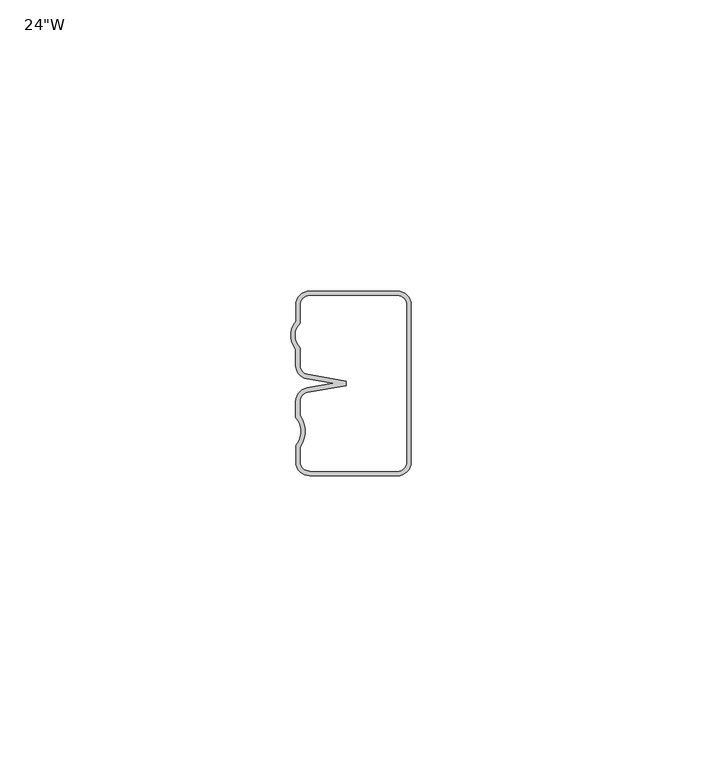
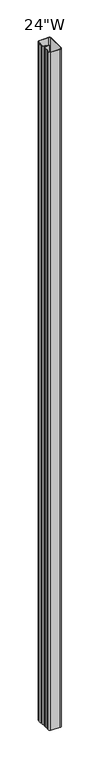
"""IFC4 building model written with IfcOpenShell, lengths in millimetres: furniture geometry."""

from ifc_helpers import new_model, si_unit, frame, origin, place, context, project, spatial, polyline, circle_curve, source, transform, mapped, element, save
from ifc_brep_helpers import plane_surface, cylinder_surface, revolved_surface, advanced_brep


def furniture_f681380f(model_context):
    return source(origin(), model_context, "Body", "AdvancedBrep", [
        advanced_brep(
        [(17.4307493, -12.7000004, 1249.3625), (2.38125, -12.7000004, 1249.3625), (0.0, -15.0812504, 1249.3625), (0.0, -17.9047617, 1249.3625), (-0.0245942, -22.7135456, 1249.3625), (-0.0245942, -25.439594, 1249.3625), (1.959, -27.7967107, 1249.3625), (6.3910055, -28.566162, 1249.3625), (1.9584816, -29.3357032, 1249.3625), (-0.0245942, -31.6927299, 1249.3625), (-0.0245942, -34.360617, 1249.3625), (0.0, -39.2275622, 1249.3625), (0.0, -42.0510735, 1249.3625), (2.38125, -44.4323235, 1249.3625), (17.4130743, -44.4499985, 1249.3625), (19.8119993, -42.0510735, 1249.3625), (19.8119993, -15.0812504, 1249.3625), (0.79375, -39.5025989, 1249.3625), (0.7691558, -34.0813213, 1249.3625), (0.7691558, -31.6927299, 1249.3625), (2.0942554, -30.1177547, 1249.3625), (8.7111835, -28.9689737, 1249.3625), (8.7111835, -28.1633502, 1249.3625), (2.0942554, -27.0145692, 1249.3625), (0.7691558, -25.439594, 1249.3625), (0.7691558, -22.4079263, 1249.3625), (0.79375, -18.2153751, 1249.3625), (0.79375, -15.0812504, 1249.3625), (2.38125, -13.4937504, 1249.3625), (17.4307493, -13.4937504, 1249.3625), (19.0182493, -15.0812504, 1249.3625), (19.0182493, -42.0510735, 1249.3625), (17.4130743, -43.6562485, 1249.3625), (2.4384001, -43.6562485, 1249.3625), (0.79375, -42.0510735, 1249.3625), (17.4307493, -12.7000004, 130.175), (19.8119993, -15.0812504, 130.175), (19.8119993, -42.0510735, 130.175), (17.4130743, -44.4499985, 130.175), (2.4384001, -44.4499985, 130.175), (0.0, -42.0510735, 130.175), (0.0, -39.2275622, 130.175), (-0.0245942, -34.360617, 130.175), (-0.0245942, -31.6927299, 130.175), (1.9584816, -29.3357032, 130.175), (6.3910055, -28.566162, 130.175), (1.959, -27.7967107, 130.175), (-0.0245942, -25.439594, 130.175), (-0.0245942, -22.7135456, 130.175), (0.0, -17.9047617, 130.175), (0.0, -15.0812504, 130.175), (2.38125, -12.7000004, 130.175), (0.79375, -39.5025989, 130.175), (0.79375, -42.0510735, 130.175), (2.38125, -43.6385735, 130.175), (17.4130743, -43.6562485, 130.175), (19.0182493, -42.0510735, 130.175), (19.0182493, -15.0812504, 130.175), (17.4307493, -13.4937504, 130.175), (2.38125, -13.4937504, 130.175), (0.79375, -15.0812504, 130.175), (0.79375, -18.2153751, 130.175), (0.7691558, -22.4079263, 130.175), (0.7691558, -25.439594, 130.175), (2.0942554, -27.0145692, 130.175), (8.7111835, -28.1633502, 130.175), (8.7111835, -28.9689737, 130.175), (2.0942554, -30.1177547, 130.175), (0.7691558, -31.6927299, 130.175), (0.7691558, -34.0813213, 130.175)],
        [
            (0, 1),
            (1, 2, circle_curve(frame((2.38125, -15.0812504, 1249.3625), z_axis=(0.0, 0.0, 1.0), x_axis=(1.0, 0.0, 0.0)), 2.38125)),
            (2, 3),
            (3, 4, circle_curve(frame((2.8600112, -20.3238439, 1249.3625), z_axis=(0.0, 0.0, 1.0), x_axis=(1.0, 0.0, 0.0)), 3.7458807)),
            (4, 5),
            (5, 6, circle_curve(frame((2.3676907, -25.439594, 1249.3625), z_axis=(0.0, 0.0, 1.0), x_axis=(1.0, 0.0, 0.0)), 2.392285)),
            (6, 7),
            (7, 8),
            (8, 9, circle_curve(frame((2.3676907, -31.6927299, 1249.3625), z_axis=(0.0, 0.0, 1.0), x_axis=(1.0, 0.0, 0.0)), 2.392285)),
            (9, 10),
            (10, 11, circle_curve(frame((-2.8600112, -36.80848, 1249.3625), z_axis=(0.0, 0.0, -1.0), x_axis=(1.0, 0.0, 0.0)), 3.7458807)),
            (11, 12),
            (12, 13, circle_curve(frame((2.38125, -42.0510735, 1249.3625), z_axis=(0.0, 0.0, 1.0), x_axis=(1.0, 0.0, 0.0)), 2.38125)),
            (13, 14),
            (14, 15, circle_curve(frame((17.4130743, -42.0510735, 1249.3625), z_axis=(0.0, 0.0, 1.0), x_axis=(1.0, 0.0, 0.0)), 2.398925)),
            (15, 16),
            (16, 0, circle_curve(frame((17.4307493, -15.0812504, 1249.3625), z_axis=(0.0, 0.0, 1.0), x_axis=(1.0, 0.0, 0.0)), 2.38125)),
            (17, 18, circle_curve(frame((-2.8600112, -36.80848, 1249.3625), z_axis=(0.0, 0.0, 1.0), x_axis=(1.0, 0.0, 0.0)), 4.5396307)),
            (18, 19),
            (19, 20, circle_curve(frame((2.3676907, -31.6927299, 1249.3625), z_axis=(0.0, 0.0, -1.0), x_axis=(1.0, 0.0, 0.0)), 1.598535)),
            (20, 21),
            (21, 22),
            (22, 23),
            (23, 24, circle_curve(frame((2.3676907, -25.439594, 1249.3625), z_axis=(0.0, 0.0, -1.0), x_axis=(1.0, 0.0, 0.0)), 1.598535)),
            (24, 25),
            (25, 26, circle_curve(frame((2.8600112, -20.3238439, 1249.3625), z_axis=(0.0, 0.0, -1.0), x_axis=(1.0, 0.0, 0.0)), 2.9521307)),
            (26, 27),
            (27, 28, circle_curve(frame((2.38125, -15.0812504, 1249.3625), z_axis=(0.0, 0.0, -1.0), x_axis=(1.0, 0.0, 0.0)), 1.5875)),
            (28, 29),
            (29, 30, circle_curve(frame((17.4307493, -15.0812504, 1249.3625), z_axis=(0.0, 0.0, -1.0), x_axis=(1.0, 0.0, 0.0)), 1.5875)),
            (30, 31),
            (31, 32, circle_curve(frame((17.4130743, -42.0510735, 1249.3625), z_axis=(0.0, 0.0, -1.0), x_axis=(1.0, 0.0, 0.0)), 1.605175)),
            (32, 33),
            (33, 34, circle_curve(frame((2.38125, -42.0510735, 1249.3625), z_axis=(0.0, 0.0, -1.0), x_axis=(1.0, 0.0, 0.0)), 1.5875)),
            (34, 17),
            (35, 36, circle_curve(frame((17.4307493, -15.0812504, 130.175), z_axis=(0.0, 0.0, -1.0), x_axis=(1.0, 0.0, 0.0)), 2.38125)),
            (36, 37),
            (37, 38, circle_curve(frame((17.4130743, -42.0510735, 130.175), z_axis=(0.0, 0.0, -1.0), x_axis=(1.0, 0.0, 0.0)), 2.398925)),
            (38, 39),
            (39, 40, circle_curve(frame((2.38125, -42.0510735, 130.175), z_axis=(0.0, 0.0, -1.0), x_axis=(1.0, 0.0, 0.0)), 2.38125)),
            (40, 41),
            (41, 42, circle_curve(frame((-2.8600112, -36.80848, 130.175), z_axis=(0.0, 0.0, 1.0), x_axis=(1.0, 0.0, 0.0)), 3.7458807)),
            (42, 43),
            (43, 44, circle_curve(frame((2.3676907, -31.6927299, 130.175), z_axis=(0.0, 0.0, -1.0), x_axis=(1.0, 0.0, 0.0)), 2.392285)),
            (44, 45),
            (45, 46),
            (46, 47, circle_curve(frame((2.3676907, -25.439594, 130.175), z_axis=(0.0, 0.0, -1.0), x_axis=(1.0, 0.0, 0.0)), 2.392285)),
            (47, 48),
            (48, 49, circle_curve(frame((2.8600112, -20.3238439, 130.175), z_axis=(0.0, 0.0, -1.0), x_axis=(1.0, 0.0, 0.0)), 3.7458807)),
            (49, 50),
            (50, 51, circle_curve(frame((2.38125, -15.0812504, 130.175), z_axis=(0.0, 0.0, -1.0), x_axis=(1.0, 0.0, 0.0)), 2.38125)),
            (51, 35),
            (52, 53),
            (53, 54, circle_curve(frame((2.38125, -42.0510735, 130.175), z_axis=(0.0, 0.0, 1.0), x_axis=(1.0, 0.0, 0.0)), 1.5875)),
            (54, 55),
            (55, 56, circle_curve(frame((17.4130743, -42.0510735, 130.175), z_axis=(0.0, 0.0, 1.0), x_axis=(1.0, 0.0, 0.0)), 1.605175)),
            (56, 57),
            (57, 58, circle_curve(frame((17.4307493, -15.0812504, 130.175), z_axis=(0.0, 0.0, 1.0), x_axis=(1.0, 0.0, 0.0)), 1.5875)),
            (58, 59),
            (59, 60, circle_curve(frame((2.38125, -15.0812504, 130.175), z_axis=(0.0, 0.0, 1.0), x_axis=(1.0, 0.0, 0.0)), 1.5875)),
            (60, 61),
            (61, 62, circle_curve(frame((2.8600112, -20.3238439, 130.175), z_axis=(0.0, 0.0, 1.0), x_axis=(1.0, 0.0, 0.0)), 2.9521307)),
            (62, 63),
            (63, 64, circle_curve(frame((2.3676907, -25.439594, 130.175), z_axis=(0.0, 0.0, 1.0), x_axis=(1.0, 0.0, 0.0)), 1.598535)),
            (64, 65),
            (65, 66),
            (66, 67),
            (67, 68, circle_curve(frame((2.3676907, -31.6927299, 130.175), z_axis=(0.0, 0.0, 1.0), x_axis=(1.0, 0.0, 0.0)), 1.598535)),
            (68, 69),
            (69, 52, circle_curve(frame((-2.8600112, -36.80848, 130.175), z_axis=(0.0, 0.0, -1.0), x_axis=(1.0, 0.0, 0.0)), 4.5396307)),
            (16, 36),
            (35, 0),
            (15, 37),
            (14, 38),
            (13, 39),
            (12, 40),
            (11, 41),
            (10, 42),
            (9, 43),
            (8, 44),
            (7, 45),
            (6, 46),
            (5, 47),
            (4, 48),
            (3, 49),
            (2, 50),
            (1, 51),
            (34, 53),
            (52, 17),
            (33, 54),
            (32, 55),
            (31, 56),
            (30, 57),
            (29, 58),
            (28, 59),
            (27, 60),
            (26, 61),
            (25, 62),
            (24, 63),
            (23, 64),
            (22, 65),
            (20, 67),
            (66, 21),
            (19, 68),
            (18, 69),
        ],
        [
            plane_surface(frame((19.8119993, -15.0812504, 1249.3625), z_axis=(0.0, 0.0, 1.0), x_axis=(0.0, -1.0, 0.0))),
            plane_surface(frame((19.8119993, -15.0812504, 130.175), z_axis=(0.0, 0.0, -1.0), x_axis=(0.0, 1.0, 0.0))),
            cylinder_surface(frame((17.4307493, -15.0812504, 130.175), z_axis=(0.0, 0.0, 1.0), x_axis=(1.0, 0.0, 0.0)), 2.38125),
            plane_surface(frame((19.8119993, -15.0812504, 1249.3625), z_axis=(1.0, 0.0, 0.0), x_axis=(0.0, 0.0, -1.0))),
            cylinder_surface(frame((17.4130743, -42.0510735, 130.175), z_axis=(0.0, 0.0, 1.0), x_axis=(1.0, 0.0, 0.0)), 2.398925),
            plane_surface(frame((17.4130743, -44.4499985, 1249.3625), z_axis=(0.0, -1.0, 0.0), x_axis=(0.0, 0.0, -1.0))),
            cylinder_surface(frame((2.38125, -42.0510735, 130.175), z_axis=(0.0, 0.0, 1.0), x_axis=(1.0, 0.0, 0.0)), 2.38125),
            plane_surface(frame((0.0, -42.0510735, 1249.3625), z_axis=(-1.0, 0.0, 0.0), x_axis=(0.0, 0.0, -1.0))),
            revolved_surface(polyline([(0.8858694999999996, -36.80848, 130.175), (0.8858694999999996, -36.80848, 1249.3625)]), (-2.8600112, -36.80848, 130.175), (0.0, 0.0, -1.0)),
            plane_surface(frame((-0.0245942, -34.360617, 1249.3625), z_axis=(-1.0, 0.0, 0.0), x_axis=(0.0, 0.0, -1.0))),
            cylinder_surface(frame((2.3676907, -31.6927299, 130.175), z_axis=(0.0, 0.0, 1.0), x_axis=(1.0, 0.0, 0.0)), 2.392285),
            plane_surface(frame((1.9584816, -29.3357032, 1249.3625), z_axis=(-0.1710536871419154, 0.9852617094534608, 0.0), x_axis=(0.0, 0.0, -1.0))),
            plane_surface(frame((6.3910055, -28.566162, 1249.3625), z_axis=(-0.1710536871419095, -0.9852617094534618, 0.0), x_axis=(0.0, 0.0, -1.0))),
            cylinder_surface(frame((2.3676907, -25.439594, 130.175), z_axis=(0.0, 0.0, 1.0), x_axis=(1.0, 0.0, 0.0)), 2.392285),
            plane_surface(frame((-0.0245942, -25.439594, 1249.3625), z_axis=(-1.0, 0.0, 0.0), x_axis=(0.0, 0.0, -1.0))),
            cylinder_surface(frame((2.8600112, -20.3238439, 130.175), z_axis=(0.0, 0.0, 1.0), x_axis=(1.0, 0.0, 0.0)), 3.7458807),
            plane_surface(frame((0.0, -17.9047617, 1249.3625), z_axis=(-1.0, 0.0, 0.0), x_axis=(0.0, 0.0, -1.0))),
            cylinder_surface(frame((2.38125, -15.0812504, 130.175), z_axis=(0.0, 0.0, 1.0), x_axis=(1.0, 0.0, 0.0)), 2.38125),
            plane_surface(frame((2.38125, -12.7000004, 1249.3625), z_axis=(0.0, 1.0, 0.0), x_axis=(0.0, 0.0, -1.0))),
            plane_surface(frame((0.79375, -39.5025989, 1249.3625), z_axis=(1.0, 0.0, 0.0), x_axis=(0.0, 0.0, -1.0))),
            revolved_surface(polyline([(3.96875, -42.0510735, 130.175), (3.96875, -42.0510735, 1249.3625)]), (2.38125, -42.0510735, 0.0), (0.0, 0.0, -1.0)),
            plane_surface(frame((2.4384001, -43.6562485, 1249.3625), z_axis=(0.0, 1.0, 0.0), x_axis=(0.0, 0.0, -1.0))),
            revolved_surface(polyline([(19.0182493, -42.0510735, 130.175), (19.0182493, -42.0510735, 1249.3625)]), (17.4130743, -42.0510735, 0.0), (0.0, 0.0, -1.0)),
            plane_surface(frame((19.0182493, -42.0510735, 1249.3625), z_axis=(-1.0, 0.0, 0.0), x_axis=(0.0, 0.0, -1.0))),
            revolved_surface(polyline([(19.018249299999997, -15.0812504, 130.175), (19.018249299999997, -15.0812504, 1249.3625)]), (17.4307493, -15.0812504, 0.0), (0.0, 0.0, -1.0)),
            plane_surface(frame((17.4307493, -13.4937504, 1249.3625), z_axis=(0.0, -1.0, 0.0), x_axis=(0.0, 0.0, -1.0))),
            revolved_surface(polyline([(3.96875, -15.0812504, 130.175), (3.96875, -15.0812504, 1249.3625)]), (2.38125, -15.0812504, 0.0), (0.0, 0.0, -1.0)),
            plane_surface(frame((0.79375, -15.0812504, 1249.3625), z_axis=(1.0, 0.0, 0.0), x_axis=(0.0, 0.0, -1.0))),
            revolved_surface(polyline([(5.8121419, -20.3238439, 130.175), (5.8121419, -20.3238439, 1249.3625)]), (2.8600112, -20.3238439, 0.0), (0.0, 0.0, -1.0)),
            plane_surface(frame((0.7691558, -22.4079263, 1249.3625), z_axis=(1.0, 0.0, 0.0), x_axis=(0.0, 0.0, -1.0))),
            revolved_surface(polyline([(3.9662257, -25.439594, 130.175), (3.9662257, -25.439594, 1249.3625)]), (2.3676907, -25.439594, 0.0), (0.0, 0.0, -1.0)),
            plane_surface(frame((2.0942554, -27.0145692, 1249.3625), z_axis=(0.17105368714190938, 0.9852617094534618, 0.0), x_axis=(0.0, 0.0, -1.0))),
            plane_surface(frame((8.7111835, -28.9689737, 1249.3625), z_axis=(0.17105368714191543, -0.9852617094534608, 0.0), x_axis=(0.0, 0.0, -1.0))),
            revolved_surface(polyline([(3.9662257, -31.6927299, 130.175), (3.9662257, -31.6927299, 1249.3625)]), (2.3676907, -31.6927299, 0.0), (0.0, 0.0, -1.0)),
            plane_surface(frame((0.7691558, -31.6927299, 1249.3625), z_axis=(1.0, 0.0, 0.0), x_axis=(0.0, 0.0, -1.0))),
            cylinder_surface(frame((-2.8600112, -36.80848, 0.0), z_axis=(0.0, 0.0, 1.0), x_axis=(1.0, 0.0, 0.0)), 4.5396307),
            plane_surface(frame((8.7111835, -28.1633502, 1249.3625), z_axis=(1.0, 0.0, 0.0), x_axis=(0.0, 0.0, -1.0))),
        ],
        [
            (0, [[1, 2, 3, 4, 5, 6, 7, 8, 9, 10, 11, 12, 13, 14, 15, 16, 17], [18, 19, 20, 21, 22, 23, 24, 25, 26, 27, 28, 29, 30, 31, 32, 33, 34, 35]]),
            (1, [[36, 37, 38, 39, 40, 41, 42, 43, 44, 45, 46, 47, 48, 49, 50, 51, 52], [53, 54, 55, 56, 57, 58, 59, 60, 61, 62, 63, 64, 65, 66, 67, 68, 69, 70]]),
            (2, [[71, -36, 72, -17]]),
            (3, [[73, -37, -71, -16]]),
            (4, [[74, -38, -73, -15]]),
            (5, [[75, -39, -74, -14]]),
            (6, [[76, -40, -75, -13]]),
            (7, [[77, -41, -76, -12]]),
            (8, [[78, -42, -77, -11]]),
            (9, [[79, -43, -78, -10]]),
            (10, [[80, -44, -79, -9]]),
            (11, [[81, -45, -80, -8]]),
            (12, [[82, -46, -81, -7]]),
            (13, [[83, -47, -82, -6]]),
            (14, [[84, -48, -83, -5]]),
            (15, [[85, -49, -84, -4]]),
            (16, [[86, -50, -85, -3]]),
            (17, [[87, -51, -86, -2]]),
            (18, [[-72, -52, -87, -1]]),
            (19, [[88, -53, 89, -35]]),
            (20, [[90, -54, -88, -34]]),
            (21, [[91, -55, -90, -33]]),
            (22, [[92, -56, -91, -32]]),
            (23, [[93, -57, -92, -31]]),
            (24, [[94, -58, -93, -30]]),
            (25, [[95, -59, -94, -29]]),
            (26, [[96, -60, -95, -28]]),
            (27, [[97, -61, -96, -27]]),
            (28, [[98, -62, -97, -26]]),
            (29, [[99, -63, -98, -25]]),
            (30, [[100, -64, -99, -24]]),
            (31, [[101, -65, -100, -23]]),
            (32, [[102, -67, 103, -21]]),
            (33, [[104, -68, -102, -20]]),
            (34, [[105, -69, -104, -19]]),
            (35, [[-89, -70, -105, -18]]),
            (36, [[-103, -66, -101, -22]]),
        ],
    ),
    ])


if __name__ == "__main__":
    model = new_model("IFC4")
    model_context = context("Model", 3, world=origin())
    ifc_project = project(units=[si_unit("LENGTHUNIT", "METRE", prefix="MILLI")], contexts=[model_context])
    site = spatial("IfcSite", under=ifc_project)
    building = spatial("IfcBuilding", under=site)
    placement = place(None, origin())
    furniture_shape = furniture_f681380f(model_context)
    element("IfcFurniture", 1, ObjectType="HON - Accelerate - Panel - Tackable Acoustical - 50H : 24\"W", at=placement, inside=building, context=model_context, shape_type="MappedRepresentation", body=[
        mapped(furniture_shape, transform((0.0, 0.0, 0.0), x_axis=(1.0, 0.0, 0.0), y_axis=(0.0, 1.0, 0.0), z_axis=(0.0, 0.0, 1.0))),
    ])
    save(model, "model.ifc")
